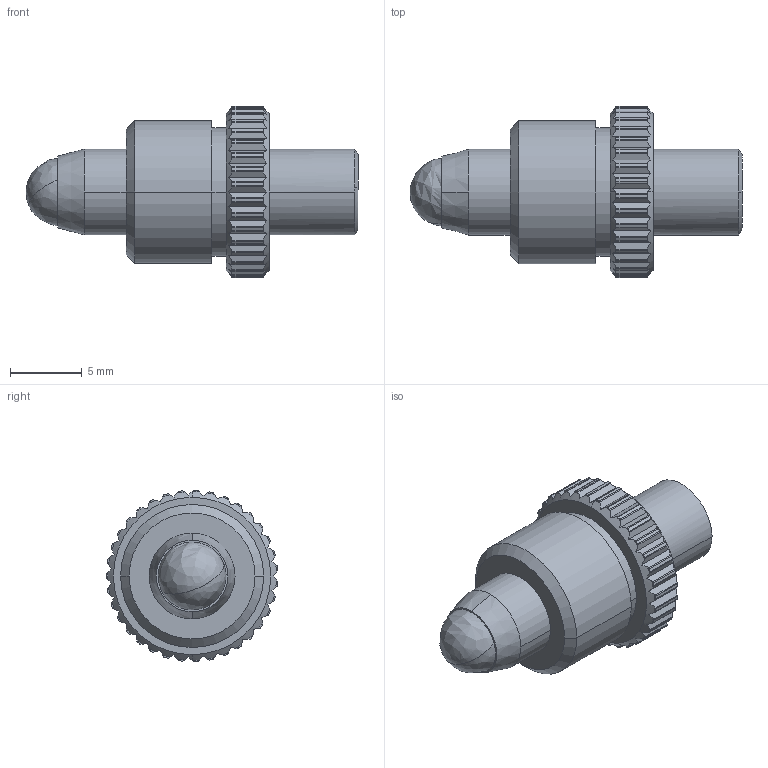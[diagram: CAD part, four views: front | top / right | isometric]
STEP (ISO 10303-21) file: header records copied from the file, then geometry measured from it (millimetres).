
FILE_DESCRIPTION (( 'STEP AP203' ), '1' );
FILE_NAME ('9SH127M-10.STEP', '2008-10-24T09:26:44', ( 'Darius' ), ( '' ), 'SwSTEP 2.0', 'SolidWorks 2003240', '' );
FILE_SCHEMA (( 'CONFIG_CONTROL_DESIGN' ));
Length unit declared in the file: millimetre
Products named in the file (1): 9SH127M-10
Bounding box: 23.21 x 11.98 x 12 mm (x, y, z)
Volume: 1121.3 mm3; surface area: 839.4 mm2
Topology: 1 solids, 1 shells, 298 faces, 865 edges, 573 vertices
Faces by surface type: plane 159, cylinder 124, cone 13, bspline 2
Entity records: 10274 total; most frequent: CARTESIAN_POINT 2309, ORIENTED_EDGE 1726, DIRECTION 1649, EDGE_CURVE 863, AXIS2_PLACEMENT_3D 641, VERTEX_POINT 573, VECTOR 367, LINE 367
